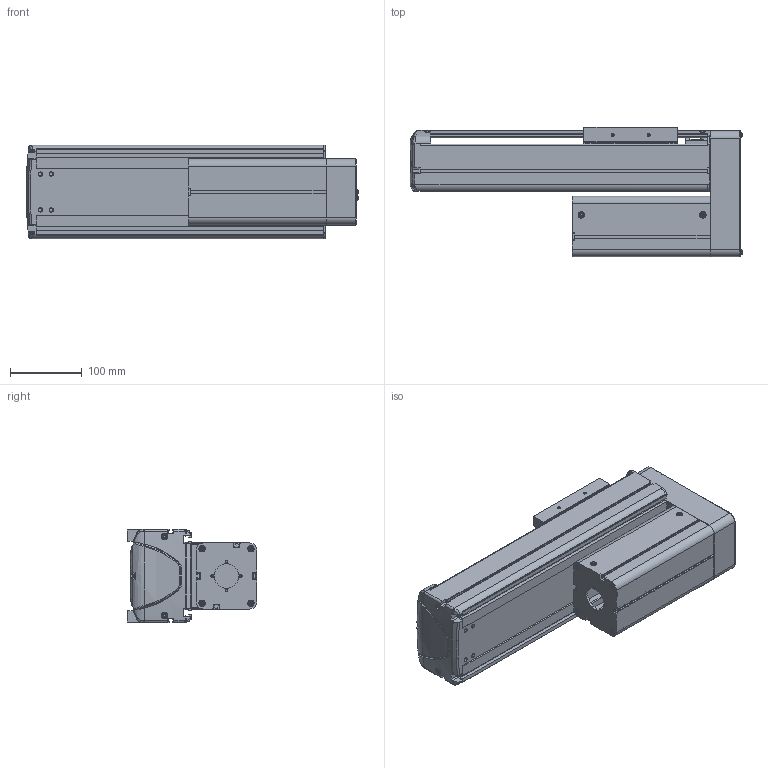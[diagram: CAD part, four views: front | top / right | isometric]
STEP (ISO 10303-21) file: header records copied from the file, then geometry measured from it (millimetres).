
FILE_DESCRIPTION((''),'2;1');
FILE_NAME('BE30E-UU-M_B-20_IGS_PRT','2017-06-17T',(' '),(''),'PRO/ENGINEER BY PARAMETRIC TECHNOLOGY CORPORATION, 2015030','PRO/ENGINEER BY PARAMETRIC TECHNOLOGY CORPORATION, 2015030','');
FILE_SCHEMA(('CONFIG_CONTROL_DESIGN'));
Length unit declared in the file: millimetre
Products named in the file (1): BE30E-UU-M_B-20_IGS_PRT
Bounding box: 461.9 x 180 x 130 mm (x, y, z)
Volume: 1923400.8 mm3; surface area: 878595.8 mm2
Topology: 2 solids, 101 shells, 1950 faces, 5232 edges, 3386 vertices
Faces by surface type: plane 985, cylinder 765, cone 107, torus 39, bspline 30, sphere 24
Entity records: 62927 total; most frequent: CARTESIAN_POINT 13322, DIRECTION 10477, ORIENTED_EDGE 10008, EDGE_CURVE 5194, AXIS2_PLACEMENT_3D 3651, VERTEX_POINT 3386, VECTOR 3175, LINE 3175
